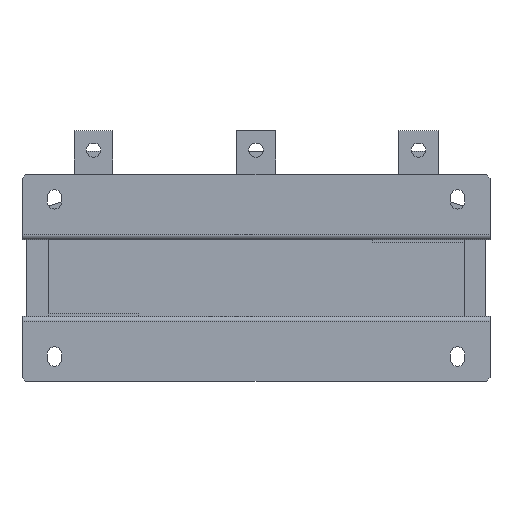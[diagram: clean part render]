
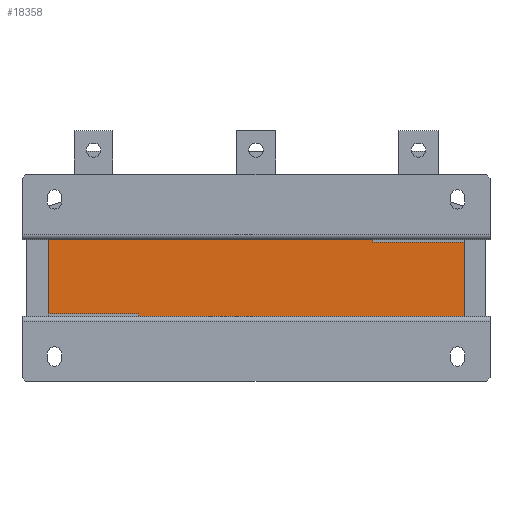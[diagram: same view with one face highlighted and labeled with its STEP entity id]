
A CAD part, front view. The second image highlights one B-rep face of the part: STEP entity #18358.
In plain terms, the highlighted planar face has unit normal (0, -1, 0).
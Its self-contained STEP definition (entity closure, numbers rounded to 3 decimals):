
#491=LINE('',#26179,#2235);
#492=LINE('',#26181,#2236);
#493=LINE('',#26183,#2237);
#494=LINE('',#26185,#2238);
#495=LINE('',#26187,#2239);
#496=LINE('',#26189,#2240);
#497=LINE('',#26191,#2241);
#498=LINE('',#26192,#2242);
#2235=VECTOR('',#21343,10.);
#2236=VECTOR('',#21344,10.);
#2237=VECTOR('',#21345,10.);
#2238=VECTOR('',#21346,10.);
#2239=VECTOR('',#21347,10.);
#2240=VECTOR('',#21348,10.);
#2241=VECTOR('',#21349,10.);
#2242=VECTOR('',#21350,10.);
#3975=PLANE('',#19542);
#5075=FACE_OUTER_BOUND('',#6187,.T.);
#6187=EDGE_LOOP('',(#12459,#12460,#12461,#12462,#12463,#12464,#12465,#12466));
#8033=VERTEX_POINT('',#26177);
#8034=VERTEX_POINT('',#26178);
#8035=VERTEX_POINT('',#26180);
#8036=VERTEX_POINT('',#26182);
#8037=VERTEX_POINT('',#26184);
#8038=VERTEX_POINT('',#26186);
#8039=VERTEX_POINT('',#26188);
#8040=VERTEX_POINT('',#26190);
#9788=EDGE_CURVE('',#8033,#8034,#491,.T.);
#9789=EDGE_CURVE('',#8035,#8034,#492,.T.);
#9790=EDGE_CURVE('',#8035,#8036,#493,.T.);
#9791=EDGE_CURVE('',#8036,#8037,#494,.T.);
#9792=EDGE_CURVE('',#8037,#8038,#495,.T.);
#9793=EDGE_CURVE('',#8039,#8038,#496,.T.);
#9794=EDGE_CURVE('',#8039,#8040,#497,.T.);
#9795=EDGE_CURVE('',#8040,#8033,#498,.T.);
#12459=ORIENTED_EDGE('',*,*,#9788,.T.);
#12460=ORIENTED_EDGE('',*,*,#9789,.F.);
#12461=ORIENTED_EDGE('',*,*,#9790,.T.);
#12462=ORIENTED_EDGE('',*,*,#9791,.T.);
#12463=ORIENTED_EDGE('',*,*,#9792,.T.);
#12464=ORIENTED_EDGE('',*,*,#9793,.F.);
#12465=ORIENTED_EDGE('',*,*,#9794,.T.);
#12466=ORIENTED_EDGE('',*,*,#9795,.T.);
#18358=ADVANCED_FACE('',(#5075),#3975,.T.);
#19542=AXIS2_PLACEMENT_3D('',#26176,#21341,#21342);
#21341=DIRECTION('center_axis',(0.,-1.,0.));
#21342=DIRECTION('ref_axis',(1.,0.,0.));
#21343=DIRECTION('',(0.,0.,1.));
#21344=DIRECTION('',(1.,0.,0.));
#21345=DIRECTION('',(0.,0.,-1.));
#21346=DIRECTION('',(1.,0.,0.));
#21347=DIRECTION('',(0.,0.,-1.));
#21348=DIRECTION('',(-1.,0.,0.));
#21349=DIRECTION('',(0.,0.,1.));
#21350=DIRECTION('',(-1.,0.,0.));
#26176=CARTESIAN_POINT('Origin',(-160.,-177.45,0.));
#26177=CARTESIAN_POINT('',(90.,-177.45,27.5));
#26178=CARTESIAN_POINT('',(90.,-177.45,29.5));
#26179=CARTESIAN_POINT('',(90.,-177.45,14.25));
#26180=CARTESIAN_POINT('',(-160.,-177.45,29.5));
#26181=CARTESIAN_POINT('',(160.,-177.45,29.5));
#26182=CARTESIAN_POINT('',(-160.,-177.45,-27.5));
#26183=CARTESIAN_POINT('',(-160.,-177.45,0.));
#26184=CARTESIAN_POINT('',(-90.,-177.45,-27.5));
#26185=CARTESIAN_POINT('',(-142.5,-177.45,-27.5));
#26186=CARTESIAN_POINT('',(-90.,-177.45,-29.5));
#26187=CARTESIAN_POINT('',(-90.,-177.45,-14.25));
#26188=CARTESIAN_POINT('',(160.,-177.45,-29.5));
#26189=CARTESIAN_POINT('',(160.,-177.45,-29.5));
#26190=CARTESIAN_POINT('',(160.,-177.45,27.5));
#26191=CARTESIAN_POINT('',(160.,-177.45,0.));
#26192=CARTESIAN_POINT('',(-17.5,-177.45,27.5));
